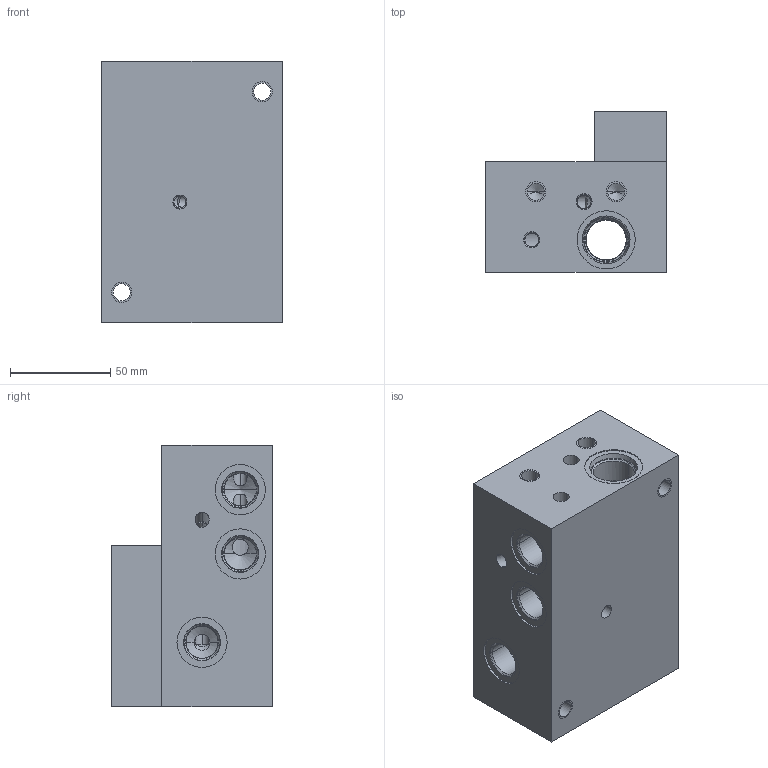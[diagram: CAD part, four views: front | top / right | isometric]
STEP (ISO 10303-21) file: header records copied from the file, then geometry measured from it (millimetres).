
FILE_DESCRIPTION((''),'2;1');
FILE_NAME('18920904','2025-11-14T08:35:33',('PoolNonAdmin28723146'),(''),'CREO PARAMETRIC BY PTC INC, 2025183','CREO PARAMETRIC BY PTC INC, 2025183','');
FILE_SCHEMA(('AUTOMOTIVE_DESIGN { 1 0 10303 214 1 1 1 1 }'));
Products named in the file (1): 18920904
Bounding box: 90 x 80 x 130 mm (x, y, z)
Volume: 575709.5 mm3; surface area: 100581.8 mm2
Topology: 1 solids, 15 shells, 341 faces, 921 edges, 595 vertices
Faces by surface type: cylinder 195, cone 99, plane 47
Entity records: 73261 total; most frequent: CARTESIAN_POINT 53691, POLYLINE 5005, DIRECTION 2070, ORIENTED_EDGE 1664, PRESENTATION_STYLE_ASSIGNMENT 1098, CURVE_STYLE 996, STYLED_ITEM 979, EDGE_CURVE 860
